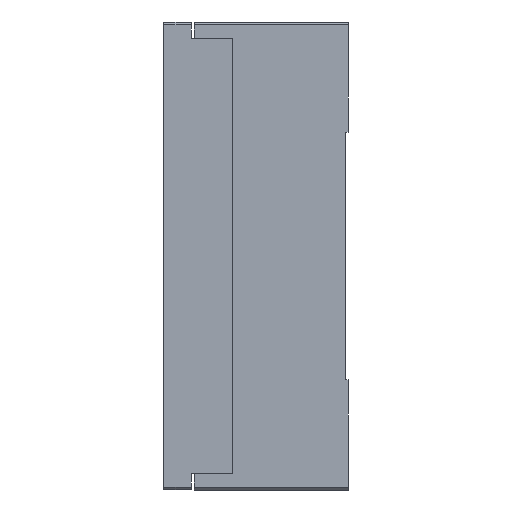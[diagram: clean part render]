
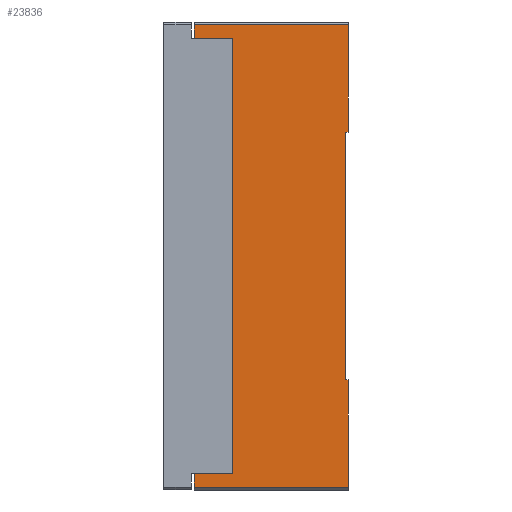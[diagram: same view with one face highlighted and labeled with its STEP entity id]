
A CAD part, left-side view. The second image highlights one B-rep face of the part: STEP entity #23836.
In plain terms, the highlighted planar face has unit normal (-1, 0, 0).
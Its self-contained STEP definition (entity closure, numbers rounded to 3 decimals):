
#278 = LINE ( 'NONE', #38687, #8110 ) ;
#520 = LINE ( 'NONE', #16282, #33505 ) ;
#888 = VECTOR ( 'NONE', #21463, 1000. ) ;
#3476 = ORIENTED_EDGE ( 'NONE', *, *, #29683, .F. ) ;
#3913 = VECTOR ( 'NONE', #41124, 1000. ) ;
#4234 = ORIENTED_EDGE ( 'NONE', *, *, #18466, .F. ) ;
#4387 = ORIENTED_EDGE ( 'NONE', *, *, #30165, .F. ) ;
#5644 = VERTEX_POINT ( 'NONE', #41736 ) ;
#5710 = VECTOR ( 'NONE', #26785, 1000. ) ;
#6551 = ORIENTED_EDGE ( 'NONE', *, *, #18842, .T. ) ;
#6562 = ORIENTED_EDGE ( 'NONE', *, *, #22413, .F. ) ;
#6754 = DIRECTION ( 'NONE',  ( 0., 1., 0. ) ) ;
#6778 = CARTESIAN_POINT ( 'NONE',  ( -105., 1., -45. ) ) ;
#7024 = CARTESIAN_POINT ( 'NONE',  ( -105., 0., -45. ) ) ;
#7381 = VERTEX_POINT ( 'NONE', #9995 ) ;
#8110 = VECTOR ( 'NONE', #41962, 1000. ) ;
#8612 = VECTOR ( 'NONE', #15066, 1000. ) ;
#9240 = ORIENTED_EDGE ( 'NONE', *, *, #23949, .F. ) ;
#9412 = VERTEX_POINT ( 'NONE', #7024 ) ;
#9723 = LINE ( 'NONE', #31018, #13845 ) ;
#9762 = LINE ( 'NONE', #20220, #888 ) ;
#9995 = CARTESIAN_POINT ( 'NONE',  ( -105., 56., 84. ) ) ;
#10122 = DIRECTION ( 'NONE',  ( 0., 0., 1. ) ) ;
#10375 = AXIS2_PLACEMENT_3D ( 'NONE', #35840, #35784, #35730 ) ;
#11998 = EDGE_CURVE ( 'NONE', #30796, #7381, #9723, .T. ) ;
#13845 = VECTOR ( 'NONE', #6754, 1000. ) ;
#13890 = VECTOR ( 'NONE', #19943, 1000. ) ;
#15066 = DIRECTION ( 'NONE',  ( 0., 0., -1. ) ) ;
#15323 = LINE ( 'NONE', #15620, #8612 ) ;
#15620 = CARTESIAN_POINT ( 'NONE',  ( -105., 42., 70. ) ) ;
#16282 = CARTESIAN_POINT ( 'NONE',  ( -105., 0., 85. ) ) ;
#16372 = EDGE_CURVE ( 'NONE', #41151, #32158, #28081, .T. ) ;
#16720 = DIRECTION ( 'NONE',  ( 0., 0., -1. ) ) ;
#16897 = EDGE_CURVE ( 'NONE', #32158, #5644, #15323, .T. ) ;
#17870 = VERTEX_POINT ( 'NONE', #21474 ) ;
#18330 = CARTESIAN_POINT ( 'NONE',  ( -105., 56., 85. ) ) ;
#18466 = EDGE_CURVE ( 'NONE', #41151, #7381, #25839, .T. ) ;
#18507 = ORIENTED_EDGE ( 'NONE', *, *, #11998, .T. ) ;
#18842 = EDGE_CURVE ( 'NONE', #5644, #20963, #31966, .T. ) ;
#19092 = EDGE_CURVE ( 'NONE', #9412, #38327, #520, .T. ) ;
#19943 = DIRECTION ( 'NONE',  ( 0., 0., -1. ) ) ;
#20009 = VECTOR ( 'NONE', #32730, 1000. ) ;
#20220 = CARTESIAN_POINT ( 'NONE',  ( -105., 0., -84. ) ) ;
#20243 = CARTESIAN_POINT ( 'NONE',  ( -105., 1., 45. ) ) ;
#20963 = VERTEX_POINT ( 'NONE', #28494 ) ;
#21230 = EDGE_CURVE ( 'NONE', #27781, #38327, #9762, .T. ) ;
#21463 = DIRECTION ( 'NONE',  ( 0., -1., 0. ) ) ;
#21474 = CARTESIAN_POINT ( 'NONE',  ( -105., 0., 45. ) ) ;
#22413 = EDGE_CURVE ( 'NONE', #27781, #20963, #31251, .T. ) ;
#22774 = CARTESIAN_POINT ( 'NONE',  ( -105., 42., 79. ) ) ;
#22973 = VECTOR ( 'NONE', #30339, 1000. ) ;
#23836 = ADVANCED_FACE ( 'NONE', ( #42352 ), #36697, .T. ) ;
#23949 = EDGE_CURVE ( 'NONE', #17870, #35552, #31650, .T. ) ;
#24021 = ORIENTED_EDGE ( 'NONE', *, *, #21230, .T. ) ;
#25786 = CARTESIAN_POINT ( 'NONE',  ( -105., 56., -84. ) ) ;
#25839 = LINE ( 'NONE', #18330, #33539 ) ;
#25938 = CARTESIAN_POINT ( 'NONE',  ( -105., 56., 79. ) ) ;
#26235 = CARTESIAN_POINT ( 'NONE',  ( -105., 56., -79. ) ) ;
#26785 = DIRECTION ( 'NONE',  ( 0., 1., 0. ) ) ;
#27152 = VECTOR ( 'NONE', #33552, 1000. ) ;
#27599 = LINE ( 'NONE', #42564, #20009 ) ;
#27781 = VERTEX_POINT ( 'NONE', #25786 ) ;
#28081 = LINE ( 'NONE', #33373, #27152 ) ;
#28494 = CARTESIAN_POINT ( 'NONE',  ( -105., 56., -79. ) ) ;
#29683 = EDGE_CURVE ( 'NONE', #35552, #40840, #40962, .T. ) ;
#30165 = EDGE_CURVE ( 'NONE', #30796, #17870, #27599, .T. ) ;
#30339 = DIRECTION ( 'NONE',  ( 0., 1., 0. ) ) ;
#30388 = CARTESIAN_POINT ( 'NONE',  ( -105., 0., 45. ) ) ;
#30796 = VERTEX_POINT ( 'NONE', #36260 ) ;
#31018 = CARTESIAN_POINT ( 'NONE',  ( -105., 56., 84. ) ) ;
#31251 = LINE ( 'NONE', #35060, #3913 ) ;
#31650 = LINE ( 'NONE', #30388, #22973 ) ;
#31966 = LINE ( 'NONE', #26235, #5710 ) ;
#32084 = EDGE_LOOP ( 'NONE', ( #33319, #6551, #6562, #24021, #34275, #34295, #3476, #9240, #4387, #18507, #4234, #42411 ) ) ;
#32158 = VERTEX_POINT ( 'NONE', #22774 ) ;
#32730 = DIRECTION ( 'NONE',  ( 0., 0., -1. ) ) ;
#33319 = ORIENTED_EDGE ( 'NONE', *, *, #16897, .T. ) ;
#33373 = CARTESIAN_POINT ( 'NONE',  ( -105., 56., 79. ) ) ;
#33505 = VECTOR ( 'NONE', #16720, 1000. ) ;
#33539 = VECTOR ( 'NONE', #10122, 1000. ) ;
#33552 = DIRECTION ( 'NONE',  ( 0., -1., 0. ) ) ;
#33774 = CARTESIAN_POINT ( 'NONE',  ( -105., 0., -84. ) ) ;
#34275 = ORIENTED_EDGE ( 'NONE', *, *, #19092, .F. ) ;
#34295 = ORIENTED_EDGE ( 'NONE', *, *, #40186, .F. ) ;
#35060 = CARTESIAN_POINT ( 'NONE',  ( -105., 56., 85. ) ) ;
#35552 = VERTEX_POINT ( 'NONE', #20243 ) ;
#35730 = DIRECTION ( 'NONE',  ( 0., 0., 1. ) ) ;
#35784 = DIRECTION ( 'NONE',  ( -1., 0., 0. ) ) ;
#35840 = CARTESIAN_POINT ( 'NONE',  ( -105., 56., 85. ) ) ;
#36260 = CARTESIAN_POINT ( 'NONE',  ( -105., 0., 84. ) ) ;
#36697 = PLANE ( 'NONE',  #10375 ) ;
#38327 = VERTEX_POINT ( 'NONE', #33774 ) ;
#38687 = CARTESIAN_POINT ( 'NONE',  ( -105., 0., -45. ) ) ;
#40159 = CARTESIAN_POINT ( 'NONE',  ( -105., 1., -45. ) ) ;
#40186 = EDGE_CURVE ( 'NONE', #40840, #9412, #278, .T. ) ;
#40840 = VERTEX_POINT ( 'NONE', #40159 ) ;
#40962 = LINE ( 'NONE', #6778, #13890 ) ;
#41124 = DIRECTION ( 'NONE',  ( 0., 0., 1. ) ) ;
#41151 = VERTEX_POINT ( 'NONE', #25938 ) ;
#41736 = CARTESIAN_POINT ( 'NONE',  ( -105., 42., -79. ) ) ;
#41962 = DIRECTION ( 'NONE',  ( 0., -1., 0. ) ) ;
#42352 = FACE_OUTER_BOUND ( 'NONE', #32084, .T. ) ;
#42411 = ORIENTED_EDGE ( 'NONE', *, *, #16372, .T. ) ;
#42564 = CARTESIAN_POINT ( 'NONE',  ( -105., 0., 85. ) ) ;
